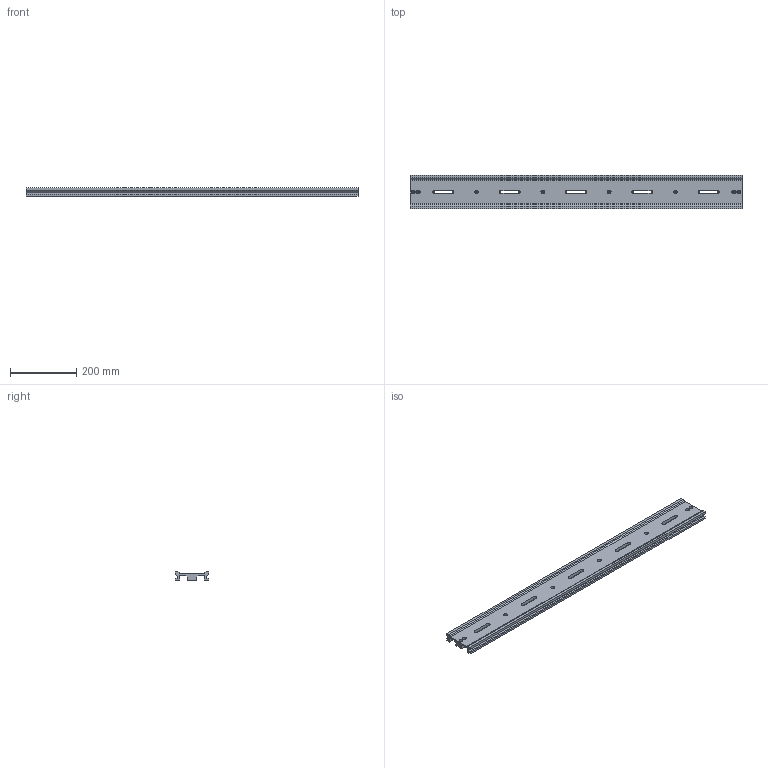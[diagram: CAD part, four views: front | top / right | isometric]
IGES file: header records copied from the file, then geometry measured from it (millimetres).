
Global section: file name: No Iges File Name specified; native system: AutoDesk Inventor R11.0; preprocessor: AutoDesk Inventor Iges Exporter R11.0; author: No Author specified; organization: No Organization specified; date: 20071109.180101; units: millimetre
Bounding box: 1000 x 100 x 25 mm (x, y, z)
Volume: 1226366.6 mm3; surface area: 338549.8 mm2
Topology: 1 solids, 1 shells, 117 faces, 306 edges, 204 vertices
Faces by surface type: plane 51, bspline 40, revolution 26
